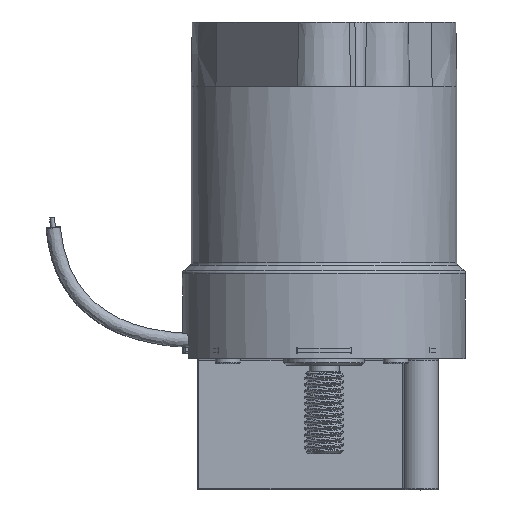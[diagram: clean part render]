
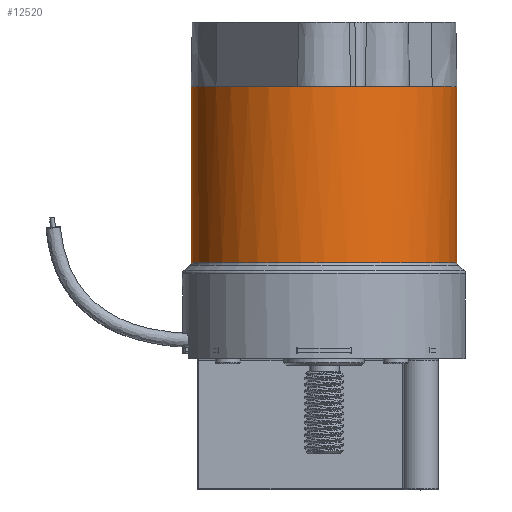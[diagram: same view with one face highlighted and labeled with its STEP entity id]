
A CAD part, top view. The second image highlights one B-rep face of the part: STEP entity #12520.
In plain terms, the highlighted cylindrical face has radius 26.289 mm (diameter 52.578 mm), a full revolution.
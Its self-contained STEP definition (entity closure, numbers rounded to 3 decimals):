
#294 = VERTEX_POINT ( 'NONE', #13185 ) ;
#339 = DIRECTION ( 'NONE',  ( 1., 0., 0. ) ) ;
#522 = CIRCLE ( 'NONE', #8574, 26.289 ) ;
#1222 = EDGE_CURVE ( 'NONE', #16991, #16991, #522, .T. ) ;
#2897 = CARTESIAN_POINT ( 'NONE',  ( -21.382, 44.485, 15.295 ) ) ;
#3396 = EDGE_LOOP ( 'NONE', ( #6073, #3888, #19845, #5282 ) ) ;
#3595 = AXIS2_PLACEMENT_3D ( 'NONE', #16700, #5010, #11941 ) ;
#3888 = ORIENTED_EDGE ( 'NONE', *, *, #5286, .F. ) ;
#4527 = CARTESIAN_POINT ( 'NONE',  ( 26.289, 9.608, 0. ) ) ;
#5010 = DIRECTION ( 'NONE',  ( 0., 1., 0. ) ) ;
#5282 = ORIENTED_EDGE ( 'NONE', *, *, #27125, .F. ) ;
#5286 = EDGE_CURVE ( 'NONE', #20865, #27761, #20148, .T. ) ;
#6073 = ORIENTED_EDGE ( 'NONE', *, *, #23727, .T. ) ;
#7568 = ORIENTED_EDGE ( 'NONE', *, *, #1222, .T. ) ;
#8045 = FACE_OUTER_BOUND ( 'NONE', #14015, .T. ) ;
#8574 = AXIS2_PLACEMENT_3D ( 'NONE', #14546, #10098, #339 ) ;
#9592 = VERTEX_POINT ( 'NONE', #26701 ) ;
#9831 = CIRCLE ( 'NONE', #16409, 26.289 ) ;
#10098 = DIRECTION ( 'NONE',  ( 0., 1., 0. ) ) ;
#11823 = CARTESIAN_POINT ( 'NONE',  ( -21.382, 44.485, -15.295 ) ) ;
#11941 = DIRECTION ( 'NONE',  ( 1., 0., 0. ) ) ;
#12266 = CARTESIAN_POINT ( 'NONE',  ( 0., 44.485, 0. ) ) ;
#12520 = ADVANCED_FACE ( 'NONE', ( #29709, #8045 ), #12932, .T. ) ;
#12932 = CYLINDRICAL_SURFACE ( 'NONE', #3595, 26.289 ) ;
#13023 = CIRCLE ( 'NONE', #25143, 26.289 ) ;
#13185 = CARTESIAN_POINT ( 'NONE',  ( 21.382, 44.485, -15.295 ) ) ;
#14015 = EDGE_LOOP ( 'NONE', ( #7568 ) ) ;
#14485 = DIRECTION ( 'NONE',  ( 0., -1., 0. ) ) ;
#14546 = CARTESIAN_POINT ( 'NONE',  ( 0., 9.608, 0. ) ) ;
#15853 = CARTESIAN_POINT ( 'NONE',  ( 0., 44.485, 0. ) ) ;
#16106 = CARTESIAN_POINT ( 'NONE',  ( 0., 44.485, 0. ) ) ;
#16409 = AXIS2_PLACEMENT_3D ( 'NONE', #16106, #22892, #27805 ) ;
#16700 = CARTESIAN_POINT ( 'NONE',  ( 0., 57.185, 0. ) ) ;
#16991 = VERTEX_POINT ( 'NONE', #4527 ) ;
#18402 = CARTESIAN_POINT ( 'NONE',  ( 0., 44.485, 0. ) ) ;
#18764 = EDGE_CURVE ( 'NONE', #20865, #294, #21626, .T. ) ;
#19237 = DIRECTION ( 'NONE',  ( -1., 0., 0. ) ) ;
#19845 = ORIENTED_EDGE ( 'NONE', *, *, #18764, .T. ) ;
#20148 = CIRCLE ( 'NONE', #27215, 26.289 ) ;
#20865 = VERTEX_POINT ( 'NONE', #11823 ) ;
#21626 = CIRCLE ( 'NONE', #24150, 26.289 ) ;
#22892 = DIRECTION ( 'NONE',  ( 0., 1., 0. ) ) ;
#23598 = DIRECTION ( 'NONE',  ( 0., -1., 0. ) ) ;
#23727 = EDGE_CURVE ( 'NONE', #9592, #27761, #13023, .T. ) ;
#24150 = AXIS2_PLACEMENT_3D ( 'NONE', #18402, #23598, #30271 ) ;
#25143 = AXIS2_PLACEMENT_3D ( 'NONE', #12266, #14485, #19237 ) ;
#26701 = CARTESIAN_POINT ( 'NONE',  ( 21.382, 44.485, 15.295 ) ) ;
#27125 = EDGE_CURVE ( 'NONE', #9592, #294, #9831, .T. ) ;
#27215 = AXIS2_PLACEMENT_3D ( 'NONE', #15853, #30088, #30407 ) ;
#27761 = VERTEX_POINT ( 'NONE', #2897 ) ;
#27805 = DIRECTION ( 'NONE',  ( -1., 0., 0. ) ) ;
#29709 = FACE_OUTER_BOUND ( 'NONE', #3396, .T. ) ;
#30088 = DIRECTION ( 'NONE',  ( 0., 1., 0. ) ) ;
#30271 = DIRECTION ( 'NONE',  ( 1., 0., 0. ) ) ;
#30407 = DIRECTION ( 'NONE',  ( -1., 0., 0. ) ) ;
